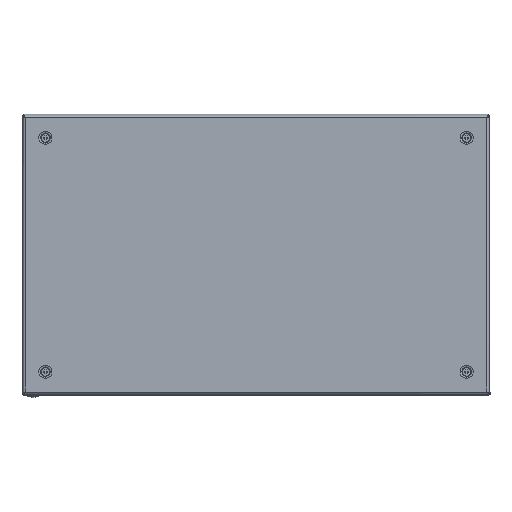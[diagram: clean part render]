
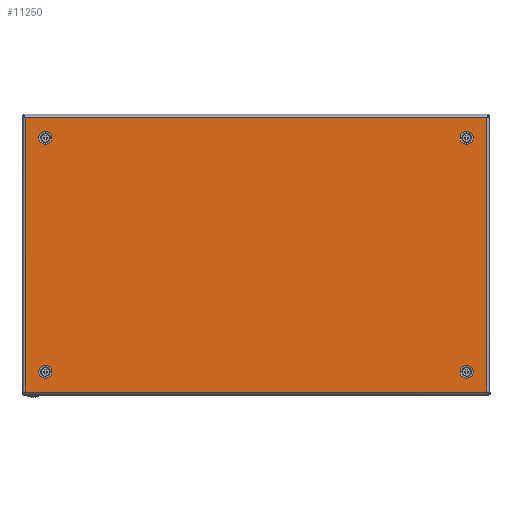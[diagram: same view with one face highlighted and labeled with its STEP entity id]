
A CAD part, top view. The second image highlights one B-rep face of the part: STEP entity #11250.
In plain terms, the highlighted planar face has unit normal (0, 0, 1).
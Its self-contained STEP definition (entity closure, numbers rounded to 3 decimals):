
#9 = ORIENTED_EDGE ( 'NONE', *, *, #19054, .F. ) ;
#221 = ORIENTED_EDGE ( 'NONE', *, *, #3268, .F. ) ;
#305 = AXIS2_PLACEMENT_3D ( 'NONE', #29911, #10768, #15881 ) ;
#630 = EDGE_LOOP ( 'NONE', ( #16117, #221 ) ) ;
#796 = AXIS2_PLACEMENT_3D ( 'NONE', #16449, #20616, #30782 ) ;
#1044 = CARTESIAN_POINT ( 'NONE',  ( 246.6, -147.659, 0. ) ) ;
#1912 = CARTESIAN_POINT ( 'NONE',  ( 225., 125., 0. ) ) ;
#2178 = DIRECTION ( 'NONE',  ( 0., -1., 0. ) ) ;
#2324 = DIRECTION ( 'NONE',  ( 0., -1., 0. ) ) ;
#3030 = DIRECTION ( 'NONE',  ( 0., 1., 0. ) ) ;
#3250 = ORIENTED_EDGE ( 'NONE', *, *, #17910, .F. ) ;
#3268 = EDGE_CURVE ( 'NONE', #9518, #26678, #13352, .T. ) ;
#3410 = DIRECTION ( 'NONE',  ( 0., 0., 1. ) ) ;
#3885 = DIRECTION ( 'NONE',  ( 0., -1., 0. ) ) ;
#4170 = ORIENTED_EDGE ( 'NONE', *, *, #27534, .T. ) ;
#4478 = VERTEX_POINT ( 'NONE', #8191 ) ;
#4552 = ORIENTED_EDGE ( 'NONE', *, *, #27017, .F. ) ;
#4917 = LINE ( 'NONE', #29309, #26660 ) ;
#5611 = LINE ( 'NONE', #20475, #13427 ) ;
#5731 = ORIENTED_EDGE ( 'NONE', *, *, #14581, .F. ) ;
#5748 = CARTESIAN_POINT ( 'NONE',  ( 225., -125., 0. ) ) ;
#6288 = VERTEX_POINT ( 'NONE', #21413 ) ;
#6412 = CIRCLE ( 'NONE', #305, 7.05 ) ;
#6452 = VERTEX_POINT ( 'NONE', #24554 ) ;
#7263 = DIRECTION ( 'NONE',  ( 0., 0., 1. ) ) ;
#7861 = DIRECTION ( 'NONE',  ( 1., 0., 0. ) ) ;
#8012 = CIRCLE ( 'NONE', #20249, 7.05 ) ;
#8191 = CARTESIAN_POINT ( 'NONE',  ( -225., 132.05, 0. ) ) ;
#9021 = ORIENTED_EDGE ( 'NONE', *, *, #15013, .F. ) ;
#9518 = VERTEX_POINT ( 'NONE', #30138 ) ;
#9531 = CARTESIAN_POINT ( 'NONE',  ( 225., 132.05, 0. ) ) ;
#9741 = CARTESIAN_POINT ( 'NONE',  ( -225., -132.05, 0. ) ) ;
#9821 = AXIS2_PLACEMENT_3D ( 'NONE', #14315, #24026, #2178 ) ;
#10768 = DIRECTION ( 'NONE',  ( 0., 0., 1. ) ) ;
#10771 = DIRECTION ( 'NONE',  ( 0., 1., 0. ) ) ;
#10856 = FACE_BOUND ( 'NONE', #27732, .T. ) ;
#11250 = ADVANCED_FACE ( 'NONE', ( #30939, #13741, #18546, #10856, #30619 ), #26139, .T. ) ;
#11310 = DIRECTION ( 'NONE',  ( 0., -1., 0. ) ) ;
#11575 = AXIS2_PLACEMENT_3D ( 'NONE', #24406, #19661, #3030 ) ;
#12012 = DIRECTION ( 'NONE',  ( 0., 0., 1. ) ) ;
#12894 = DIRECTION ( 'NONE',  ( -1., 0., 0. ) ) ;
#12999 = EDGE_CURVE ( 'NONE', #26678, #9518, #29322, .T. ) ;
#13021 = EDGE_CURVE ( 'NONE', #29968, #18094, #27758, .T. ) ;
#13352 = CIRCLE ( 'NONE', #25557, 7.05 ) ;
#13427 = VECTOR ( 'NONE', #7861, 1000. ) ;
#13741 = FACE_BOUND ( 'NONE', #28375, .T. ) ;
#13924 = DIRECTION ( 'NONE',  ( 0., 1., 0. ) ) ;
#14315 = CARTESIAN_POINT ( 'NONE',  ( 225., 125., 0. ) ) ;
#14411 = CARTESIAN_POINT ( 'NONE',  ( -225., 125., 0. ) ) ;
#14581 = EDGE_CURVE ( 'NONE', #4478, #6288, #15172, .T. ) ;
#15013 = EDGE_CURVE ( 'NONE', #22863, #18776, #8012, .T. ) ;
#15172 = CIRCLE ( 'NONE', #11575, 7.05 ) ;
#15881 = DIRECTION ( 'NONE',  ( 0., -1., 0. ) ) ;
#15959 = VECTOR ( 'NONE', #10771, 1000. ) ;
#16117 = ORIENTED_EDGE ( 'NONE', *, *, #12999, .F. ) ;
#16282 = ORIENTED_EDGE ( 'NONE', *, *, #30751, .F. ) ;
#16348 = CARTESIAN_POINT ( 'NONE',  ( 246.6, 146.6, 0. ) ) ;
#16449 = CARTESIAN_POINT ( 'NONE',  ( 0., 0., 0. ) ) ;
#16839 = CARTESIAN_POINT ( 'NONE',  ( -225., -117.95, 0. ) ) ;
#17016 = DIRECTION ( 'NONE',  ( 0., -1., 0. ) ) ;
#17680 = CARTESIAN_POINT ( 'NONE',  ( -246.6, 146.6, 0. ) ) ;
#17910 = EDGE_CURVE ( 'NONE', #18776, #22863, #6412, .T. ) ;
#18094 = VERTEX_POINT ( 'NONE', #23679 ) ;
#18292 = CARTESIAN_POINT ( 'NONE',  ( -225., -125., 0. ) ) ;
#18546 = FACE_BOUND ( 'NONE', #20547, .T. ) ;
#18776 = VERTEX_POINT ( 'NONE', #16839 ) ;
#19019 = ORIENTED_EDGE ( 'NONE', *, *, #13021, .T. ) ;
#19054 = EDGE_CURVE ( 'NONE', #24715, #19087, #23267, .T. ) ;
#19087 = VERTEX_POINT ( 'NONE', #21069 ) ;
#19478 = EDGE_LOOP ( 'NONE', ( #19019, #4170, #21011, #20766 ) ) ;
#19661 = DIRECTION ( 'NONE',  ( 0., 0., 1. ) ) ;
#19688 = VECTOR ( 'NONE', #2324, 1000. ) ;
#20249 = AXIS2_PLACEMENT_3D ( 'NONE', #18292, #3410, #3885 ) ;
#20475 = CARTESIAN_POINT ( 'NONE',  ( -247.659, -146.6, 0. ) ) ;
#20547 = EDGE_LOOP ( 'NONE', ( #9021, #3250 ) ) ;
#20616 = DIRECTION ( 'NONE',  ( 0., 0., 1. ) ) ;
#20766 = ORIENTED_EDGE ( 'NONE', *, *, #26542, .T. ) ;
#21011 = ORIENTED_EDGE ( 'NONE', *, *, #25012, .T. ) ;
#21069 = CARTESIAN_POINT ( 'NONE',  ( 225., 117.95, 0. ) ) ;
#21413 = CARTESIAN_POINT ( 'NONE',  ( -225., 117.95, 0. ) ) ;
#22105 = CARTESIAN_POINT ( 'NONE',  ( 225., -125., 0. ) ) ;
#22552 = CIRCLE ( 'NONE', #9821, 7.05 ) ;
#22863 = VERTEX_POINT ( 'NONE', #9741 ) ;
#23267 = CIRCLE ( 'NONE', #24777, 7.05 ) ;
#23679 = CARTESIAN_POINT ( 'NONE',  ( -246.6, -146.6, 0. ) ) ;
#24026 = DIRECTION ( 'NONE',  ( 0., 0., 1. ) ) ;
#24406 = CARTESIAN_POINT ( 'NONE',  ( -225., 125., 0. ) ) ;
#24554 = CARTESIAN_POINT ( 'NONE',  ( 246.6, -146.6, 0. ) ) ;
#24677 = CARTESIAN_POINT ( 'NONE',  ( 225., -132.05, 0. ) ) ;
#24715 = VERTEX_POINT ( 'NONE', #9531 ) ;
#24777 = AXIS2_PLACEMENT_3D ( 'NONE', #1912, #26295, #11310 ) ;
#25012 = EDGE_CURVE ( 'NONE', #6452, #27316, #25433, .T. ) ;
#25209 = DIRECTION ( 'NONE',  ( 0., 0., 1. ) ) ;
#25433 = LINE ( 'NONE', #1044, #15959 ) ;
#25557 = AXIS2_PLACEMENT_3D ( 'NONE', #22105, #7263, #17016 ) ;
#26139 = PLANE ( 'NONE',  #796 ) ;
#26268 = AXIS2_PLACEMENT_3D ( 'NONE', #14411, #12012, #13924 ) ;
#26295 = DIRECTION ( 'NONE',  ( 0., 0., 1. ) ) ;
#26542 = EDGE_CURVE ( 'NONE', #27316, #29968, #4917, .T. ) ;
#26660 = VECTOR ( 'NONE', #12894, 1000. ) ;
#26678 = VERTEX_POINT ( 'NONE', #24677 ) ;
#27017 = EDGE_CURVE ( 'NONE', #19087, #24715, #22552, .T. ) ;
#27316 = VERTEX_POINT ( 'NONE', #16348 ) ;
#27534 = EDGE_CURVE ( 'NONE', #18094, #6452, #5611, .T. ) ;
#27598 = DIRECTION ( 'NONE',  ( 0., -1., 0. ) ) ;
#27732 = EDGE_LOOP ( 'NONE', ( #5731, #16282 ) ) ;
#27758 = LINE ( 'NONE', #31024, #19688 ) ;
#28303 = CIRCLE ( 'NONE', #26268, 7.05 ) ;
#28375 = EDGE_LOOP ( 'NONE', ( #4552, #9 ) ) ;
#29309 = CARTESIAN_POINT ( 'NONE',  ( 247.659, 146.6, 0. ) ) ;
#29322 = CIRCLE ( 'NONE', #30351, 7.05 ) ;
#29911 = CARTESIAN_POINT ( 'NONE',  ( -225., -125., 0. ) ) ;
#29968 = VERTEX_POINT ( 'NONE', #17680 ) ;
#30138 = CARTESIAN_POINT ( 'NONE',  ( 225., -117.95, 0. ) ) ;
#30351 = AXIS2_PLACEMENT_3D ( 'NONE', #5748, #25209, #27598 ) ;
#30619 = FACE_OUTER_BOUND ( 'NONE', #19478, .T. ) ;
#30751 = EDGE_CURVE ( 'NONE', #6288, #4478, #28303, .T. ) ;
#30782 = DIRECTION ( 'NONE',  ( 1., 0., 0. ) ) ;
#30939 = FACE_BOUND ( 'NONE', #630, .T. ) ;
#31024 = CARTESIAN_POINT ( 'NONE',  ( -246.6, 147.659, 0. ) ) ;
